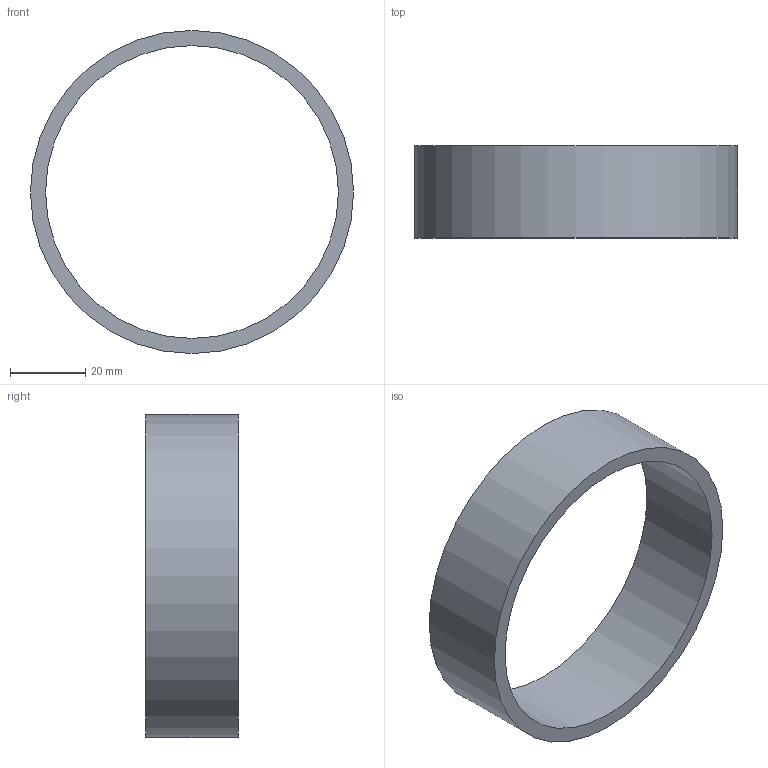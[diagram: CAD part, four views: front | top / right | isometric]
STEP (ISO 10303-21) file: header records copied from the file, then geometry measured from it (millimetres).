
FILE_DESCRIPTION(/* description */ ('STEP AP242 Edition 2','CAx-IF Rec.Pracs.---Representation and Presentation of Product Manufacturing Information (PMI)---4.0---2014-10-13','CAx-IF Rec.Pracs.---3D Tessellated Geometry---0.4---2014-09-14','2;1','CAx-IF Rec.Pracs.---User Defined Attributes---1.5---2016-08-15'),/* implementation_level */ '2;1');
FILE_NAME(/* name */ 'wheel - Modifier Mesh',/* time_stamp */ '2026-05-29T17:26:38Z',/* author */ (''),/* organization */ (''),/* preprocessor_version */ 'ST-DEVELOPER v20',/* originating_system */ 'ONSHAPE BY PTC INC, 1.215',/* authorisation */ ' ');
FILE_SCHEMA (('AP242_MANAGED_MODEL_BASED_3D_ENGINEERING_MIM_LF { 1 0 10303 442 3 1 4 }'));
Length unit declared in the file: metre
Products named in the file (1): Modifier Mesh
Bounding box: 85.6 x 24.4 x 85.6 mm (x, y, z)
Volume: 25019.5 mm3; surface area: 14560.5 mm2
Topology: 1 solids, 1 shells, 4 faces, 6 edges, 4 vertices
Faces by surface type: cylinder 2, plane 2
Full cylindrical faces by diameter (mm): 77.596 x1, 85.596 x1
Entity records: 110 total; most frequent: DIRECTION 18, CARTESIAN_POINT 13, AXIS2_PLACEMENT_3D 9, ORIENTED_EDGE 8, EDGE_LOOP 8, FACE_BOUND 8, EDGE_CURVE 4, VERTEX_POINT 4
